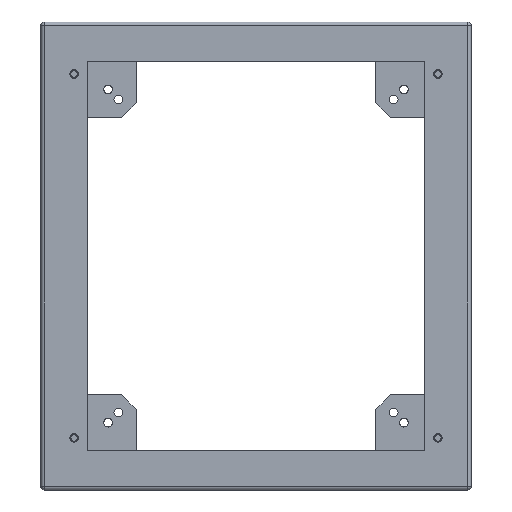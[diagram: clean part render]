
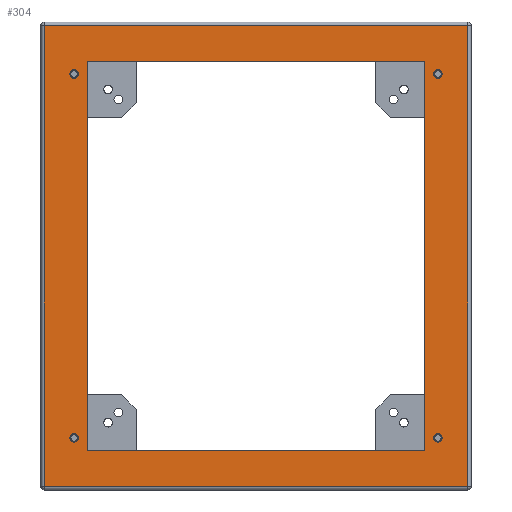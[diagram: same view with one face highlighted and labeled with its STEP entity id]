
A CAD part, top view. The second image highlights one B-rep face of the part: STEP entity #304.
In plain terms, the highlighted planar face has unit normal (0, 0, 1).
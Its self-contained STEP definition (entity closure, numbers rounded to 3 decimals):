
#304=ADVANCED_FACE('',(#1182,#1184,#1186,#1188,#1190,#1192),#1194,.T.);
#1182=FACE_BOUND('',#1183,.T.);
#1183=EDGE_LOOP('',(#2115,#2116,#2117,#2118));
#1184=FACE_BOUND('',#1185,.T.);
#1185=EDGE_LOOP('',(#2119,#2120,#2121,#2122));
#1186=FACE_BOUND('',#1187,.T.);
#1187=EDGE_LOOP('',(#2123));
#1188=FACE_BOUND('',#1189,.T.);
#1189=EDGE_LOOP('',(#2124));
#1190=FACE_BOUND('',#1191,.T.);
#1191=EDGE_LOOP('',(#2125));
#1192=FACE_BOUND('',#1193,.T.);
#1193=EDGE_LOOP('',(#2126));
#1194=PLANE('',#1195);
#1195=AXIS2_PLACEMENT_3D('',#1196,#1197,#1198);
#1196=CARTESIAN_POINT('',(0.,0.,-49.));
#1197=DIRECTION('',(0.,0.,1.));
#1198=DIRECTION('',(0.,1.,0.));
#2115=ORIENTED_EDGE('',*,*,#2465,.T.);
#2116=ORIENTED_EDGE('',*,*,#2461,.T.);
#2117=ORIENTED_EDGE('',*,*,#2456,.T.);
#2118=ORIENTED_EDGE('',*,*,#2469,.T.);
#2119=ORIENTED_EDGE('',*,*,#2447,.T.);
#2120=ORIENTED_EDGE('',*,*,#2454,.T.);
#2121=ORIENTED_EDGE('',*,*,#2452,.T.);
#2122=ORIENTED_EDGE('',*,*,#2450,.T.);
#2123=ORIENTED_EDGE('',*,*,#2446,.T.);
#2124=ORIENTED_EDGE('',*,*,#2445,.T.);
#2125=ORIENTED_EDGE('',*,*,#2444,.T.);
#2126=ORIENTED_EDGE('',*,*,#2443,.T.);
#2443=EDGE_CURVE('',#2871,#2871,#2872,.F.);
#2444=EDGE_CURVE('',#2873,#2873,#2874,.F.);
#2445=EDGE_CURVE('',#2875,#2875,#2876,.F.);
#2446=EDGE_CURVE('',#2877,#2877,#2878,.F.);
#2447=EDGE_CURVE('',#2879,#2880,#2881,.F.);
#2450=EDGE_CURVE('',#2884,#2879,#2885,.F.);
#2452=EDGE_CURVE('',#2887,#2884,#2888,.F.);
#2454=EDGE_CURVE('',#2880,#2887,#2890,.F.);
#2456=EDGE_CURVE('',#2893,#2891,#2894,.T.);
#2461=EDGE_CURVE('',#2899,#2893,#2900,.T.);
#2465=EDGE_CURVE('',#2904,#2899,#2905,.T.);
#2469=EDGE_CURVE('',#2891,#2904,#2909,.T.);
#2871=VERTEX_POINT('',#3877);
#2872=CIRCLE('',#3878,5.5);
#2873=VERTEX_POINT('',#3882);
#2874=CIRCLE('',#3883,5.5);
#2875=VERTEX_POINT('',#3887);
#2876=CIRCLE('',#3888,5.5);
#2877=VERTEX_POINT('',#3892);
#2878=CIRCLE('',#3893,5.5);
#2879=VERTEX_POINT('',#3897);
#2880=VERTEX_POINT('',#3898);
#2881=LINE('',#3899,#3900);
#2884=VERTEX_POINT('',#3908);
#2885=LINE('',#3909,#3910);
#2887=VERTEX_POINT('',#3915);
#2888=LINE('',#3916,#3917);
#2890=LINE('',#3922,#3923);
#2891=VERTEX_POINT('',#3925);
#2893=VERTEX_POINT('',#3930);
#2894=LINE('',#3931,#3932);
#2899=VERTEX_POINT('',#3950);
#2900=LINE('',#3951,#3952);
#2904=VERTEX_POINT('',#3966);
#2905=LINE('',#3967,#3968);
#2909=LINE('',#3982,#3983);
#3877=CARTESIAN_POINT('',(-483.5,24.,-49.));
#3878=AXIS2_PLACEMENT_3D('',#3879,#3880,#3881);
#3879=CARTESIAN_POINT('',(-483.5,18.5,-49.));
#3880=DIRECTION('',(0.,0.,1.));
#3881=DIRECTION('',(0.,1.,0.));
#3882=CARTESIAN_POINT('',(-18.5,24.,-49.));
#3883=AXIS2_PLACEMENT_3D('',#3884,#3885,#3886);
#3884=CARTESIAN_POINT('',(-18.5,18.5,-49.));
#3885=DIRECTION('',(0.,0.,1.));
#3886=DIRECTION('',(0.,1.,0.));
#3887=CARTESIAN_POINT('',(-18.5,489.,-49.));
#3888=AXIS2_PLACEMENT_3D('',#3889,#3890,#3891);
#3889=CARTESIAN_POINT('',(-18.5,483.5,-49.));
#3890=DIRECTION('',(0.,0.,1.));
#3891=DIRECTION('',(0.,1.,0.));
#3892=CARTESIAN_POINT('',(-483.5,489.,-49.));
#3893=AXIS2_PLACEMENT_3D('',#3894,#3895,#3896);
#3894=CARTESIAN_POINT('',(-483.5,483.5,-49.));
#3895=DIRECTION('',(0.,0.,1.));
#3896=DIRECTION('',(0.,1.,0.));
#3897=CARTESIAN_POINT('',(-466.,2.,-49.));
#3898=CARTESIAN_POINT('',(-466.,500.,-49.));
#3899=CARTESIAN_POINT('',(-466.,500.,-49.));
#3900=VECTOR('',#3901,1.);
#3901=DIRECTION('',(0.,-1.,0.));
#3908=CARTESIAN_POINT('',(-36.,2.,-49.));
#3909=CARTESIAN_POINT('',(-466.,2.,-49.));
#3910=VECTOR('',#3911,1.);
#3911=DIRECTION('',(1.,0.,0.));
#3915=CARTESIAN_POINT('',(-36.,500.,-49.));
#3916=CARTESIAN_POINT('',(-36.,2.,-49.));
#3917=VECTOR('',#3918,1.);
#3918=DIRECTION('',(0.,1.,0.));
#3922=CARTESIAN_POINT('',(-36.,500.,-49.));
#3923=VECTOR('',#3924,1.);
#3924=DIRECTION('',(-1.,0.,0.));
#3925=CARTESIAN_POINT('',(19.4,545.4,-49.));
#3930=CARTESIAN_POINT('',(19.4,-43.4,-49.));
#3931=CARTESIAN_POINT('',(19.4,-43.4,-49.));
#3932=VECTOR('',#3933,1.);
#3933=DIRECTION('',(0.,1.,0.));
#3950=CARTESIAN_POINT('',(-521.4,-43.4,-49.));
#3951=CARTESIAN_POINT('',(-521.4,-43.4,-49.));
#3952=VECTOR('',#3953,1.);
#3953=DIRECTION('',(1.,0.,0.));
#3966=CARTESIAN_POINT('',(-521.4,545.4,-49.));
#3967=CARTESIAN_POINT('',(-521.4,545.4,-49.));
#3968=VECTOR('',#3969,1.);
#3969=DIRECTION('',(0.,-1.,0.));
#3982=CARTESIAN_POINT('',(19.4,545.4,-49.));
#3983=VECTOR('',#3984,1.);
#3984=DIRECTION('',(-1.,0.,0.));
